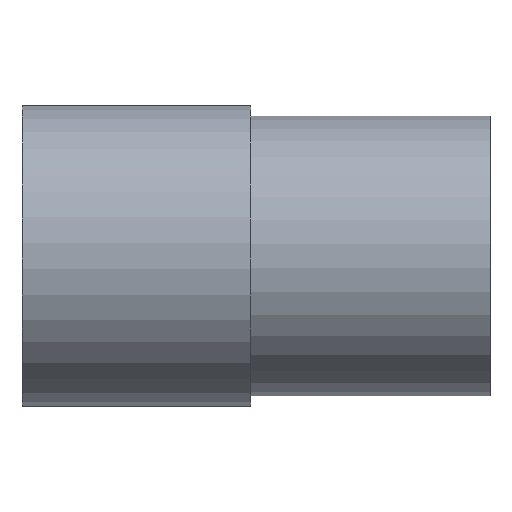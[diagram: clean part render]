
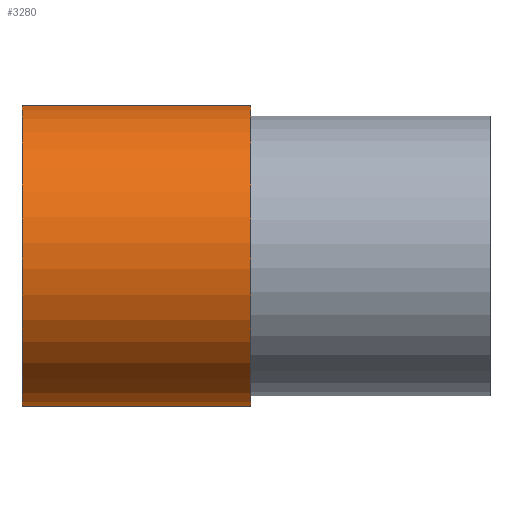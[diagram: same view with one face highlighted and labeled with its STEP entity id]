
A CAD part, front view. The second image highlights one B-rep face of the part: STEP entity #3280.
In plain terms, the highlighted cylindrical face has radius 7.25 mm (diameter 14.5 mm), a partial arc.
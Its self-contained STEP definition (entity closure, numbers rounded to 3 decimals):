
#100=CARTESIAN_POINT('',(52.63,58.723,0.));
#110=VERTEX_POINT('',#100);
#290=CARTESIAN_POINT('',(52.623,58.73,0.));
#300=VERTEX_POINT('',#290);
#330=CARTESIAN_POINT('',(47.5,53.6,0.));
#340=DIRECTION('',(0.,0.,1.));
#350=DIRECTION('',(1.,0.,0.));
#360=AXIS2_PLACEMENT_3D('',#330,#340,#350);
#370=CIRCLE('',#360,7.25);
#380=EDGE_CURVE('',#300,#110,#370,.T.);
#1010=CARTESIAN_POINT('',(52.623,58.73,11.));
#1020=VERTEX_POINT('',#1010);
#1050=CARTESIAN_POINT('',(52.623,58.73,0.));
#1060=DIRECTION('',(0.,0.,1.));
#1070=VECTOR('',#1060,1.);
#1080=LINE('',#1050,#1070);
#1090=EDGE_CURVE('',#300,#1020,#1080,.T.);
#1230=CARTESIAN_POINT('',(52.63,58.723,11.));
#1240=VERTEX_POINT('',#1230);
#1710=CARTESIAN_POINT('',(52.63,58.723,0.));
#1720=DIRECTION('',(0.,0.,1.));
#1730=VECTOR('',#1720,1.);
#1740=LINE('',#1710,#1730);
#1750=EDGE_CURVE('',#110,#1240,#1740,.T.);
#1940=CARTESIAN_POINT('',(47.5,53.6,11.));
#1950=DIRECTION('',(0.,0.,1.));
#1960=DIRECTION('',(1.,0.,0.));
#1970=AXIS2_PLACEMENT_3D('',#1940,#1950,#1960);
#1980=CIRCLE('',#1970,7.25);
#1990=EDGE_CURVE('',#1020,#1240,#1980,.T.);
#3170=CARTESIAN_POINT('',(47.5,53.6,0.));
#3180=DIRECTION('',(0.,0.,1.));
#3190=DIRECTION('',(1.,0.,0.));
#3200=AXIS2_PLACEMENT_3D('',#3170,#3180,#3190);
#3210=CYLINDRICAL_SURFACE('',#3200,7.25);
#3220=ORIENTED_EDGE('',*,*,#1750,.T.);
#3230=ORIENTED_EDGE('',*,*,#380,.T.);
#3240=ORIENTED_EDGE('',*,*,#1090,.F.);
#3250=ORIENTED_EDGE('',*,*,#1990,.F.);
#3260=EDGE_LOOP('',(#3250,#3240,#3230,#3220));
#3270=FACE_OUTER_BOUND('',#3260,.T.);
#3280=ADVANCED_FACE('',(#3270),#3210,.T.);
